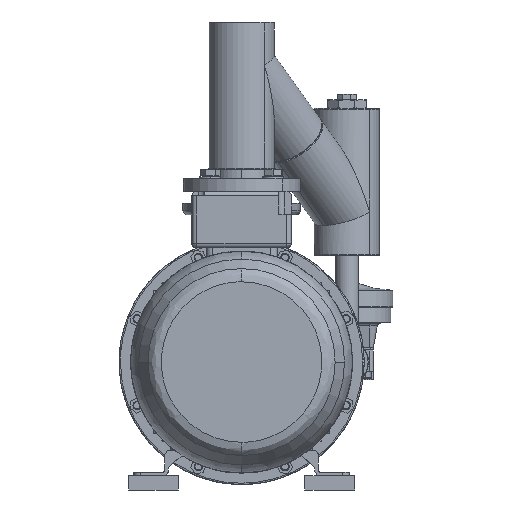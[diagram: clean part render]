
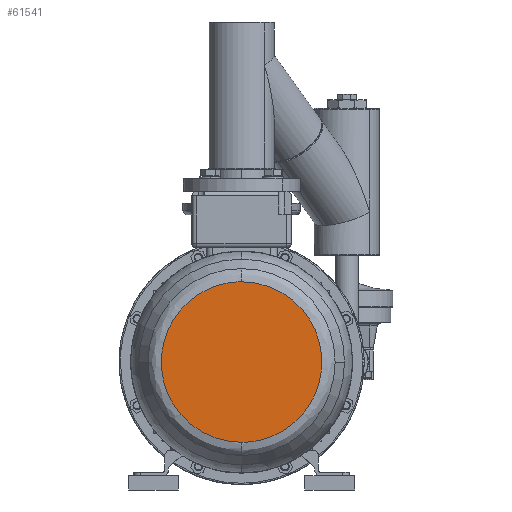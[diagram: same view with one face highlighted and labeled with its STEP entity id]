
A CAD part, front view. The second image highlights one B-rep face of the part: STEP entity #61541.
In plain terms, the highlighted planar face has unit normal (0, -1, 0).
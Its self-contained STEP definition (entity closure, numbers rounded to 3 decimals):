
#6951 = AXIS2_PLACEMENT_3D ( 'NONE', #7008, #7007, #7005 ) ;
#7005 = DIRECTION ( 'NONE',  ( 1., 0., 0. ) ) ;
#7007 = DIRECTION ( 'NONE',  ( 0., -1., 0. ) ) ;
#7008 = CARTESIAN_POINT ( 'NONE',  ( -154.66, -859.393, 25. ) ) ;
#7016 = PLANE ( 'NONE',  #6951 ) ;
#7018 = FACE_OUTER_BOUND ( 'NONE', #61567, .T. ) ;
#7037 = CARTESIAN_POINT ( 'NONE',  ( -154.66, -859.393, -87.932 ) ) ;
#7038 = CARTESIAN_POINT ( 'NONE',  ( 71.205, -859.393, -87.932 ) ) ;
#7039 = CARTESIAN_POINT ( 'NONE',  ( 71.205, -859.393, 137.932 ) ) ;
#7040 = CARTESIAN_POINT ( 'NONE',  ( -154.66, -859.393, 137.932 ) ) ;
#7041 =( BOUNDED_CURVE ( )  B_SPLINE_CURVE ( 3, ( #7040, #7039, #7038, #7037 ),
 .UNSPECIFIED., .F., .T. ) 
 B_SPLINE_CURVE_WITH_KNOTS ( ( 4, 4 ),
 ( 0., 1. ),
 .UNSPECIFIED. ) 
 CURVE ( )  GEOMETRIC_REPRESENTATION_ITEM ( )  RATIONAL_B_SPLINE_CURVE ( ( 1., 0.333, 0.333, 1. ) ) 
 REPRESENTATION_ITEM ( '' )  );
#9689 = VERTEX_POINT ( 'NONE', #87163 ) ;
#9697 = VERTEX_POINT ( 'NONE', #87054 ) ;
#9720 = EDGE_CURVE ( 'NONE', #9689, #9697, #87285, .T. ) ;
#61541 = ADVANCED_FACE ( 'NONE', ( #7018 ), #7016, .T. ) ;
#61544 = ORIENTED_EDGE ( 'NONE', *, *, #9720, .F. ) ;
#61549 = ORIENTED_EDGE ( 'NONE', *, *, #61573, .F. ) ;
#61567 = EDGE_LOOP ( 'NONE', ( #61544, #61549 ) ) ;
#61573 = EDGE_CURVE ( 'NONE', #9697, #9689, #7041, .T. ) ;
#86511 = CARTESIAN_POINT ( 'NONE',  ( -154.66, -859.393, -87.932 ) ) ;
#86517 = CARTESIAN_POINT ( 'NONE',  ( -154.66, -859.393, 137.932 ) ) ;
#86519 = CARTESIAN_POINT ( 'NONE',  ( -380.525, -859.393, 137.932 ) ) ;
#86524 = CARTESIAN_POINT ( 'NONE',  ( -380.525, -859.393, -87.932 ) ) ;
#87054 = CARTESIAN_POINT ( 'NONE',  ( -154.66, -859.393, 137.932 ) ) ;
#87163 = CARTESIAN_POINT ( 'NONE',  ( -154.66, -859.393, -87.932 ) ) ;
#87285 =( BOUNDED_CURVE ( )  B_SPLINE_CURVE ( 3, ( #86511, #86524, #86519, #86517 ),
 .UNSPECIFIED., .F., .T. ) 
 B_SPLINE_CURVE_WITH_KNOTS ( ( 4, 4 ),
 ( 0., 1. ),
 .UNSPECIFIED. ) 
 CURVE ( )  GEOMETRIC_REPRESENTATION_ITEM ( )  RATIONAL_B_SPLINE_CURVE ( ( 1., 0.333, 0.333, 1. ) ) 
 REPRESENTATION_ITEM ( '' )  );
